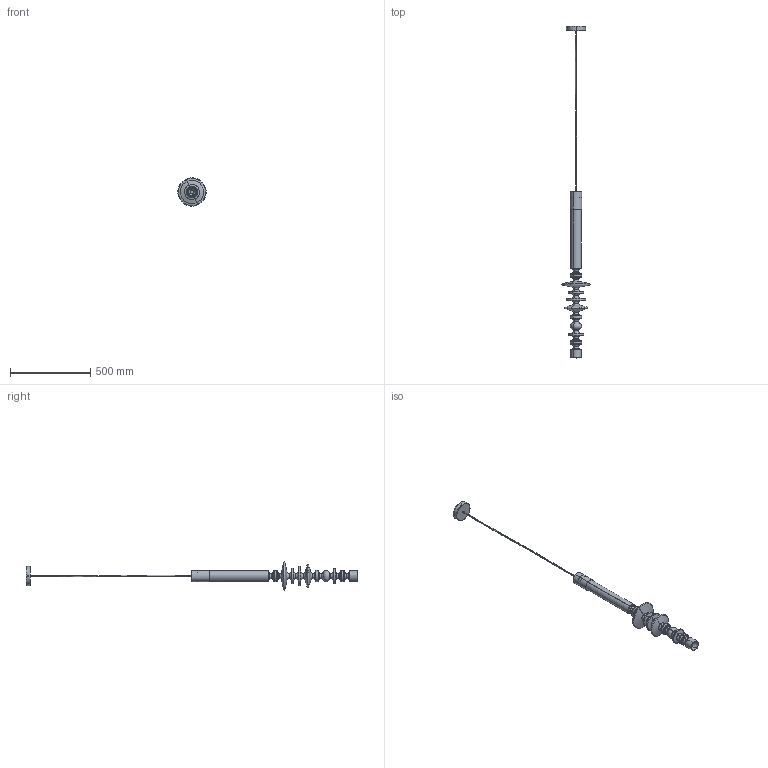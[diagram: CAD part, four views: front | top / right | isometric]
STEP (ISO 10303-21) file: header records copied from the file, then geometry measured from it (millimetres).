
FILE_DESCRIPTION (( 'STEP AP203' ), '1' );
FILE_NAME ('Filamento Vertical 104.STEP', '2026-04-30T09:35:21', ( '' ), ( '' ), 'SwSTEP 2.0', 'SolidWorks 2025', '' );
FILE_SCHEMA (( 'CONFIG_CONTROL_DESIGN' ));
Length unit declared in the file: millimetre
Products named in the file (13): Vite a Testa Svasata Piana Cava Esagonale UNI-5933_VITE M3X6 TSPCE UNI-5933; ATA-A06-S000-R00 - Architetti; ATC-X21-S690-R00; ATC-X21-S604-R00 - Architetti; ATC-A06-S012-R00 - Architetti_Default<A macchina>; Viti a Testa Bombata e Cava Esagonale ISO-7380_VITE M4X12 TBCE ISO-7380 ; ATA-X21-S600-R00 - Architetti; ATA-X21-S604-R00 - Architetti; ATC-X21-S600-R00; Nipplo Steab 5475xx_NIPPLO M10x1 H.7 TRASP.; Lamp. Halopar GU10 - GZ10 Osram_LAMPADA GU10 50W 220V; Nipplo Steab 5475xx_NIPPLO M10x1 H.7 NERO; Filamento Vertical 104
Assembly tree (14 placements, depth 4):
  Filamento Vertical 104
    ATA-X21-S604-R00 - Architetti
      Lamp. Halopar GU10 - GZ10 Osram_LAMPADA GU10 50W 220V
      Nipplo Steab 5475xx_NIPPLO M10x1 H.7 TRASP.
      Vite a Testa Svasata Piana Cava Esagonale UNI-5933_VITE M3X6 TSPCE UNI-5933  x2
      ATC-X21-S604-R00 - Architetti
      ATC-X21-S690-R00
      ATA-A06-S000-R00 - Architetti
        Viti a Testa Bombata e Cava Esagonale ISO-7380_VITE M4X12 TBCE ISO-7380   x2
        Nipplo Steab 5475xx_NIPPLO M10x1 H.7 NERO
        ATC-A06-S012-R00 - Architetti_Default<A macchina>
    ATA-X21-S600-R00 - Architetti
      ATC-X21-S600-R00
Bounding box: 176.5 x 2072 x 176.5 mm (x, y, z)
Volume: 929680.8 mm3; surface area: 723034.2 mm2
Topology: 12 solids, 12 shells, 418 faces, 869 edges, 486 vertices
Faces by surface type: torus 150, cone 98, cylinder 97, plane 67, bspline 6
Entity records: 12322 total; most frequent: CARTESIAN_POINT 2484, DIRECTION 2077, ORIENTED_EDGE 1574, AXIS2_PLACEMENT_3D 923, EDGE_CURVE 787, CIRCLE 528, VERTEX_POINT 438, EDGE_LOOP 417
